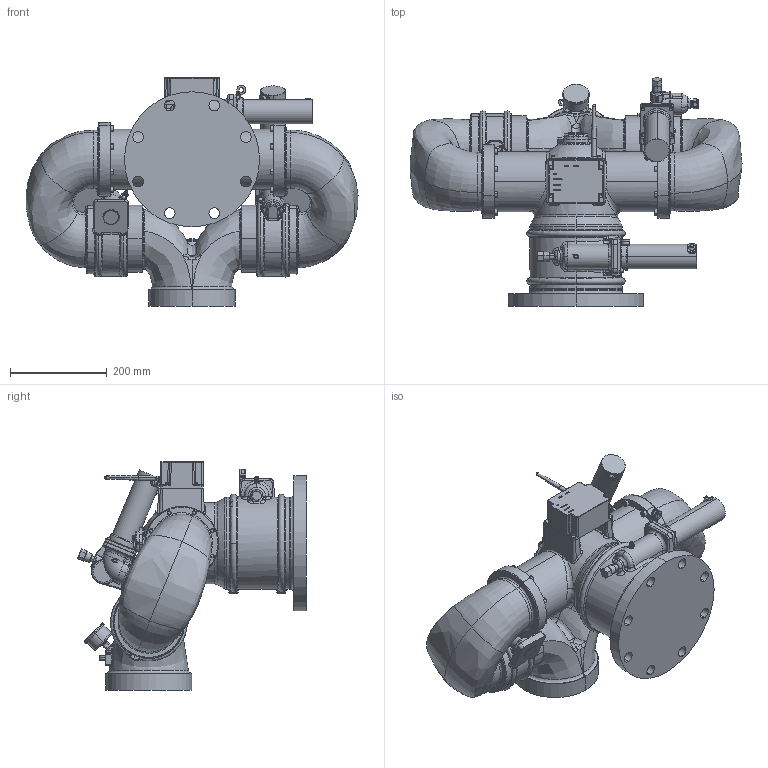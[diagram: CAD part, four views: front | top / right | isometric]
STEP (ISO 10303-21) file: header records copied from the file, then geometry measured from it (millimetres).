
FILE_DESCRIPTION (( 'STEP AP214' ), '1' );
FILE_NAME ('7600_04-19-17.STEP', '2017-04-19T21:19:57', ( 'eb' ), ( '' ), 'SwSTEP 2.0', 'SolidWorks 2016', '' );
FILE_SCHEMA (( 'AUTOMOTIVE_DESIGN' ));
Length unit declared in the file: inch
Products named in the file (1): 7600_04-19-17
Bounding box: 686.73 x 472.66 x 472.62 mm (x, y, z)
Volume: 29708016.3 mm3; surface area: 1252417.9 mm2
Topology: 57 solids, 61 shells, 2987 faces, 7232 edges, 4497 vertices
Faces by surface type: plane 762, cylinder 713, bspline 667, cone 515, torus 268, sphere 62
Entity records: 165994 total; most frequent: CARTESIAN_POINT 99636, ORIENTED_EDGE 14340, DIRECTION 12554, EDGE_CURVE 7170, AXIS2_PLACEMENT_3D 5010, VERTEX_POINT 4490, EDGE_LOOP 3192, ADVANCED_FACE 2987
